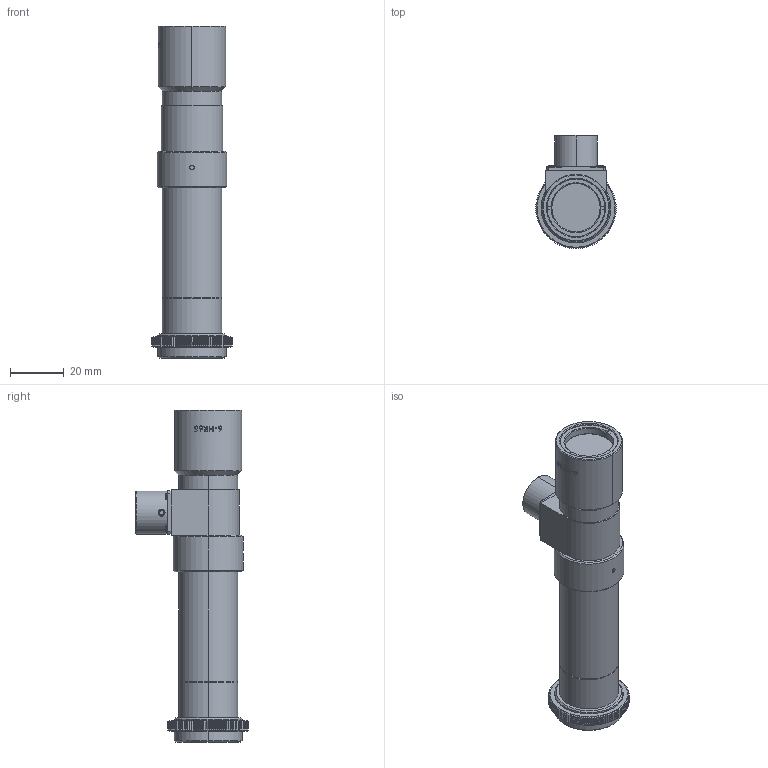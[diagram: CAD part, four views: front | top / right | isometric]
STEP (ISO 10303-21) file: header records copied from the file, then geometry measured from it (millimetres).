
FILE_DESCRIPTION (( 'STEP AP203' ), '1' );
FILE_NAME ('MML6-HR65D-VI_A03941A0000101A.STEP', '2014-07-15T04:30:29', ( '' ), ( '' ), 'SwSTEP 2.0', 'SolidWorks 2011', '' );
FILE_SCHEMA (( 'CONFIG_CONTROL_DESIGN' ));
Length unit declared in the file: inch
Products named in the file (1): MML6-HR65D-VI_A03941A0000101A
Bounding box: 30 x 42 x 123.6 mm (x, y, z)
Volume: 49665.1 mm3; surface area: 15518.8 mm2
Topology: 1 solids, 14 shells, 739 faces, 1899 edges, 1203 vertices
Faces by surface type: plane 430, cone 143, cylinder 100, bspline 42, torus 16, sphere 8
Entity records: 26691 total; most frequent: CARTESIAN_POINT 9974, ORIENTED_EDGE 3766, DIRECTION 3022, EDGE_CURVE 1883, AXIS2_PLACEMENT_3D 1209, VERTEX_POINT 1203, EDGE_LOOP 790, B_SPLINE_CURVE_WITH_KNOTS 748
